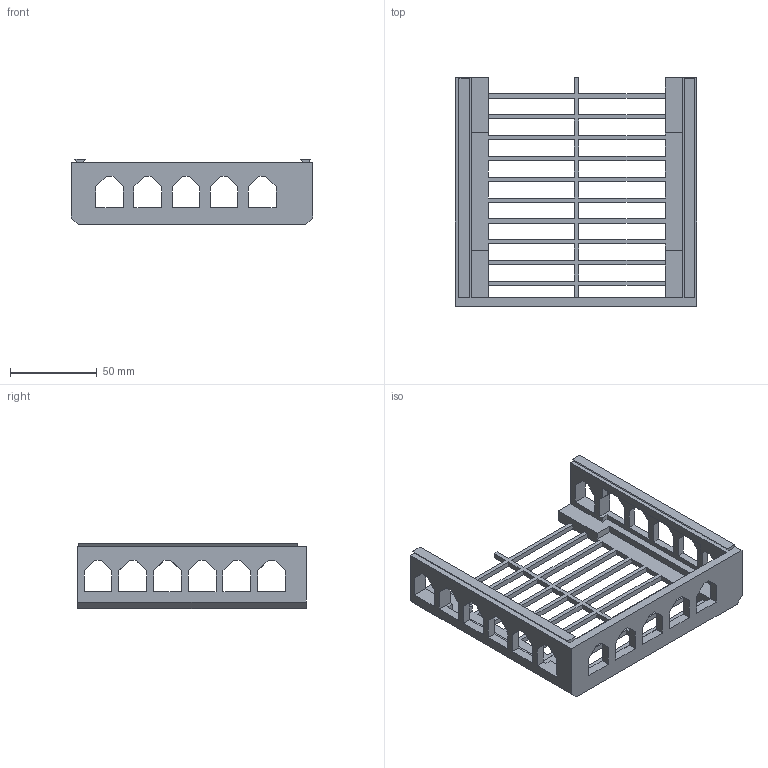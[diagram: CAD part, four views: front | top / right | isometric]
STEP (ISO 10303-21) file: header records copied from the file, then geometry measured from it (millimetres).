
FILE_DESCRIPTION(('FreeCAD Model'),'2;1');
FILE_NAME('Open CASCADE Shape Model','2026-09-08T07:02:40',('FreeCAD'),( 'FreeCAD'),'Open CASCADE STEP processor 7.8','FreeCAD','Unknown');
FILE_SCHEMA(('AUTOMOTIVE_DESIGN { 1 0 10303 214 1 1 1 1 }'));
Length unit declared in the file: millimetre
Products named in the file (1): Open CASCADE STEP translator 7.8 9
Bounding box: 139 x 131.7 x 38 mm (x, y, z)
Volume: 85109.1 mm3; surface area: 51013.7 mm2
Topology: 1 solids, 1 shells, 224 faces, 720 edges, 480 vertices
Faces by surface type: plane 224
Entity records: 7922 total; most frequent: ORIENTED_EDGE 1440, CARTESIAN_POINT 1425, DIRECTION 1170, EDGE_CURVE 720, LINE 720, VECTOR 720, VERTEX_POINT 480, FACE_BOUND 280
